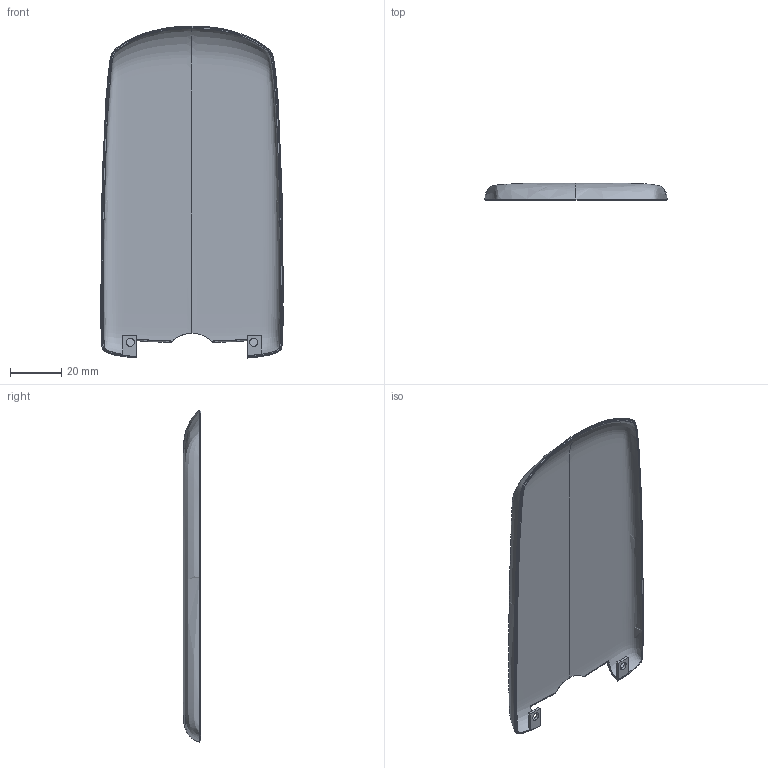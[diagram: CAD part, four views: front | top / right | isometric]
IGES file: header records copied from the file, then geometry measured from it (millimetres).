
Start section:  PTC IGES file: jc_cover_cf_prt.igs
Global section: file name: jc_cover_cf_prt.igs; native system: Pro/ENGINEER by Parametric Technology Corporation; preprocessor: 2000030; author: ECaille; organization: Unknown; date: 000803.091952; units: millimetre
Bounding box: 71.48 x 6.75 x 130.05 mm (x, y, z)
Surface area: 19533 mm2 (no closed solid volume)
Topology: 0 solids, 0 shells, 28 faces, 246 edges, 342 vertices
Faces by surface type: bspline 20, revolution 5, extrusion 3
